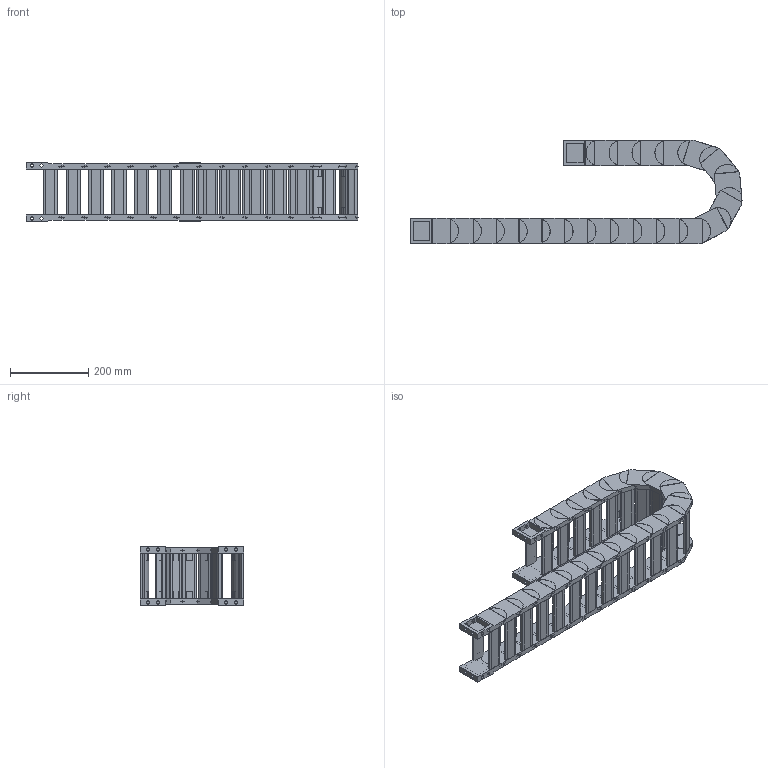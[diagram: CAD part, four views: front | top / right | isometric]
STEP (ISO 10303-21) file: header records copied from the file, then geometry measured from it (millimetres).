
FILE_DESCRIPTION((''),'2;1');
FILE_NAME('HD45-R100-ZPT_ASM','2022-06-20T19:58:48',('admin'),(''),'CREO PARAMETRIC BY PTC INC, 2021164','CREO PARAMETRIC BY PTC INC, 2021164','');
FILE_SCHEMA(('CONFIG_CONTROL_DESIGN','GEOMETRIC_VALIDATION_PROPERTIES_MIM'));
Length unit declared in the file: millimetre
Products named in the file (6): HD45-585; 45-500001; HD45_ASM; H45-T1-G; H45-T2-G; HD45-R100-ZPT_ASM
Assembly tree (26 placements, depth 3):
  HD45-R100-ZPT_ASM
    HD45_ASM  x20
      HD45-585
      45-500001
    H45-T1-G
    H45-T2-G
    45-500001  x2
Bounding box: 847.35 x 264.83 x 150.4 mm (x, y, z)
Volume: 3953904 mm3; surface area: 1342995.4 mm2
Topology: 88 solids, 88 shells, 1714 faces, 4586 edges, 3140 vertices
Faces by surface type: plane 1126, cylinder 588
Entity records: 8630 total; most frequent: CARTESIAN_POINT 1392, DIRECTION 1382, ORIENTED_EDGE 1276, EDGE_CURVE 638, AXIS2_PLACEMENT_3D 480, VERTEX_POINT 432, VECTOR 422, LINE 422
